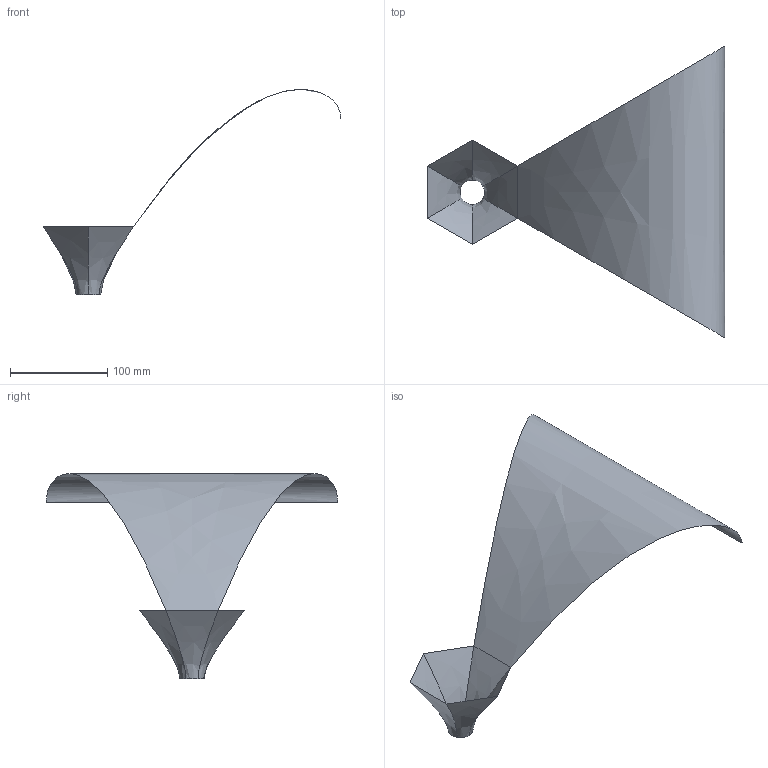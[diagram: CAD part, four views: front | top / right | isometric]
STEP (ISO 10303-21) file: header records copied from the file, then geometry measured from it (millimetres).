
FILE_DESCRIPTION(/* description */ (''),/* implementation_level */ '2;1');
FILE_NAME(/* name */ 'ATHEX-520-25 v1.step',/* time_stamp */ '2023-07-07T08:45:10+02:00',/* author */ (''),/* organization */ (''),/* preprocessor_version */ 'ST-DEVELOPER v19.2',/* originating_system */ 'Autodesk Translation Framework v12.6.0.85',/* authorisation */ '');
FILE_SCHEMA (('AUTOMOTIVE_DESIGN { 1 0 10303 214 3 1 1 }'));
Length unit declared in the file: millimetre
Products named in the file (1): ATHEX-520-25
Bounding box: 306.52 x 300.22 x 211.29 mm (x, y, z)
Surface area: 63178.9 mm2 (no closed solid volume)
Topology: 0 solids, 2 shells, 7 faces, 22 edges, 16 vertices
Faces by surface type: bspline 7
Entity records: 1068 total; most frequent: CARTESIAN_POINT 877, ORIENTED_EDGE 28, EDGE_CURVE 22, DIRECTION 22, VERTEX_POINT 16, LINE 8, VECTOR 8, B_SPLINE_CURVE_WITH_KNOTS 8
